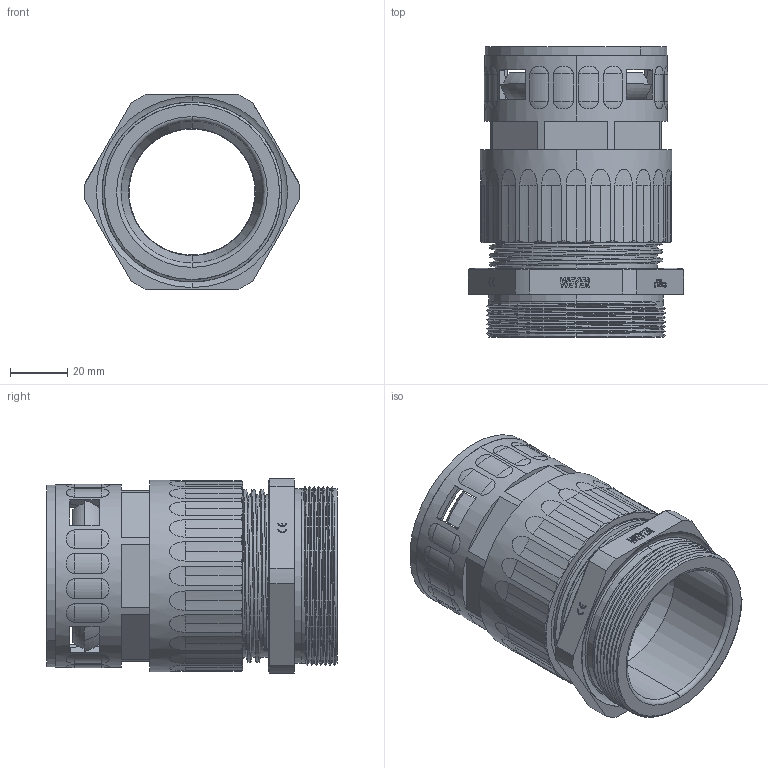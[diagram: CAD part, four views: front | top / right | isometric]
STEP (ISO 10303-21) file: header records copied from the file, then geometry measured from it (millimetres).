
FILE_DESCRIPTION (( 'STEP AP203' ), '1' );
FILE_NAME ('WQGZ-M63-AD54.5.STEP', '2020-03-11T05:19:02', ( '' ), ( '' ), 'SwSTEP 2.0', 'SolidWorks 2016', '' );
FILE_SCHEMA (( 'CONFIG_CONTROL_DESIGN' ));
Length unit declared in the file: millimetre
Products named in the file (8): 蚾饜极2; WQG2-Tr60-AD54.5; HSK-M63-01; CTH-P48; WGQ2-Tr60-AD54.5; GFD-AD54.5; WQGZ-M63-AD54.5; NSK-AD54.5
Assembly tree (7 placements, depth 3):
  WQGZ-M63-AD54.5
    WQG2-Tr60-AD54.5
      WGQ2-Tr60-AD54.5
      GFD-AD54.5
      NSK-AD54.5
    蚾饜极2
      HSK-M63-01
      CTH-P48
Bounding box: 75.48 x 101.6 x 68 mm (x, y, z)
Volume: 126405 mm3; surface area: 83315.7 mm2
Topology: 5 solids, 5 shells, 952 faces, 2685 edges, 1731 vertices
Faces by surface type: plane 445, cylinder 251, cone 69, bspline 68, torus 63, sphere 56
Entity records: 39034 total; most frequent: CARTESIAN_POINT 14605, ORIENTED_EDGE 5194, DIRECTION 4652, EDGE_CURVE 2597, VERTEX_POINT 1699, AXIS2_PLACEMENT_3D 1677, LINE 1298, VECTOR 1298
